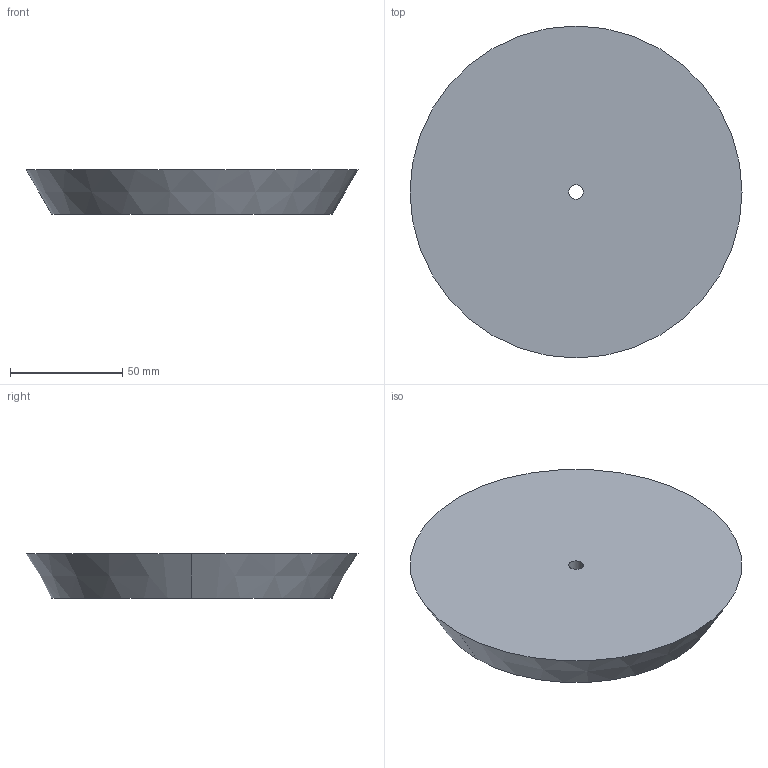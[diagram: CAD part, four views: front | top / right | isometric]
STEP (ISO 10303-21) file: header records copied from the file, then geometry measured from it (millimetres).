
FILE_DESCRIPTION(('CATIA V5 STEP Exchange'),'2;1');
FILE_NAME('C:\Users\andres.garcia\OneDrive - IQS\ASIGNATURAS\DAO\Controles\2223\c0\c1-MARTIN_Martin-tapon.stp','2023-02-03T08:22:05+00:00',('none'),('none'),'CATIA Version 5-6 Release 2013 SP6','CATIA V5 STEP AP203','none');
FILE_SCHEMA(('CONFIG_CONTROL_DESIGN'));
Length unit declared in the file: millimetre
Products named in the file (1): c1-MARTIN_Martin-tapon
Bounding box: 148 x 148 x 20 mm (x, y, z)
Volume: 292507.6 mm3; surface area: 39698.7 mm2
Topology: 1 solids, 1 shells, 6 faces, 12 edges, 8 vertices
Faces by surface type: cylinder 2, plane 2, cone 2
Entity records: 196 total; most frequent: CARTESIAN_POINT 26, ORIENTED_EDGE 24, DIRECTION 22, AXIS2_PLACEMENT_3D 14, EDGE_CURVE 12, CIRCLE 8, EDGE_LOOP 8, VERTEX_POINT 8
